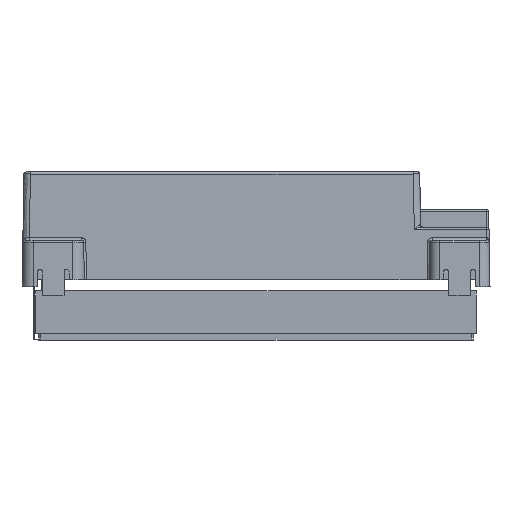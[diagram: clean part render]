
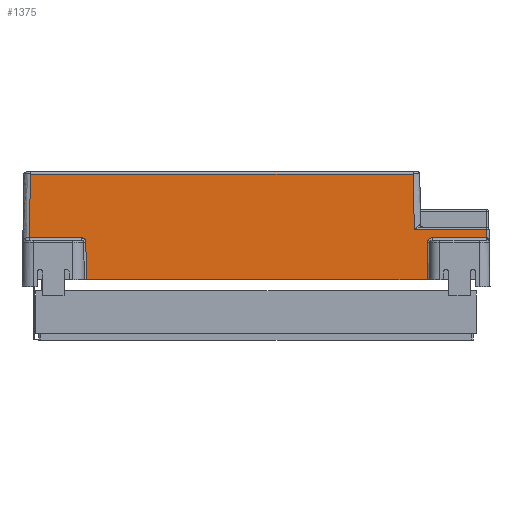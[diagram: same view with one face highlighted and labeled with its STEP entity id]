
A CAD part, left-side view. The second image highlights one B-rep face of the part: STEP entity #1375.
In plain terms, the highlighted planar face has unit normal (-1, 0, 0.018).
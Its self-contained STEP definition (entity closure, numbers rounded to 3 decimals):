
#344=(
BOUNDED_CURVE()
B_SPLINE_CURVE(2,(#23103,#23104,#23105),.UNSPECIFIED.,.F.,.F.)
B_SPLINE_CURVE_WITH_KNOTS((3,3),(-1.966,0.),.UNSPECIFIED.)
CURVE()
GEOMETRIC_REPRESENTATION_ITEM()
RATIONAL_B_SPLINE_CURVE((1.,0.713,1.))
REPRESENTATION_ITEM('')
);
#353=(
BOUNDED_CURVE()
B_SPLINE_CURVE(2,(#23151,#23152,#23153),.UNSPECIFIED.,.F.,.F.)
B_SPLINE_CURVE_WITH_KNOTS((3,3),(-1.966,0.),.UNSPECIFIED.)
CURVE()
GEOMETRIC_REPRESENTATION_ITEM()
RATIONAL_B_SPLINE_CURVE((1.,0.713,1.))
REPRESENTATION_ITEM('')
);
#451=(
BOUNDED_CURVE()
B_SPLINE_CURVE(1,(#23566,#23567),.UNSPECIFIED.,.F.,.F.)
B_SPLINE_CURVE_WITH_KNOTS((2,2),(0.,2.018),.UNSPECIFIED.)
CURVE()
GEOMETRIC_REPRESENTATION_ITEM()
RATIONAL_B_SPLINE_CURVE((1.,1.))
REPRESENTATION_ITEM('')
);
#486=(
BOUNDED_CURVE()
B_SPLINE_CURVE(1,(#23716,#23717),.UNSPECIFIED.,.F.,.F.)
B_SPLINE_CURVE_WITH_KNOTS((2,2),(0.,14.822),.UNSPECIFIED.)
CURVE()
GEOMETRIC_REPRESENTATION_ITEM()
RATIONAL_B_SPLINE_CURVE((1.,1.))
REPRESENTATION_ITEM('')
);
#487=(
BOUNDED_CURVE()
B_SPLINE_CURVE(1,(#23718,#23719),.UNSPECIFIED.,.F.,.F.)
B_SPLINE_CURVE_WITH_KNOTS((2,2),(0.,12.804),.UNSPECIFIED.)
CURVE()
GEOMETRIC_REPRESENTATION_ITEM()
RATIONAL_B_SPLINE_CURVE((1.,1.))
REPRESENTATION_ITEM('')
);
#553=(
BOUNDED_CURVE()
B_SPLINE_CURVE(1,(#24492,#24493),.UNSPECIFIED.,.F.,.F.)
B_SPLINE_CURVE_WITH_KNOTS((2,2),(-8.711,0.),.UNSPECIFIED.)
CURVE()
GEOMETRIC_REPRESENTATION_ITEM()
RATIONAL_B_SPLINE_CURVE((1.,1.))
REPRESENTATION_ITEM('')
);
#555=(
BOUNDED_CURVE()
B_SPLINE_CURVE(1,(#24497,#24498),.UNSPECIFIED.,.F.,.F.)
B_SPLINE_CURVE_WITH_KNOTS((2,2),(-8.711,0.),.UNSPECIFIED.)
CURVE()
GEOMETRIC_REPRESENTATION_ITEM()
RATIONAL_B_SPLINE_CURVE((1.,1.))
REPRESENTATION_ITEM('')
);
#1375=ADVANCED_FACE('',(#2065),#11256,.T.);
#2065=FACE_OUTER_BOUND('',#2778,.T.);
#2778=EDGE_LOOP('',(#5612,#5613,#5614,#5615,#5616,#5617,#5618,#5619,#5620,
#5621,#5622,#5623));
#5612=ORIENTED_EDGE('',*,*,#8124,.T.);
#5613=ORIENTED_EDGE('',*,*,#8227,.T.);
#5614=ORIENTED_EDGE('',*,*,#7681,.F.);
#5615=ORIENTED_EDGE('',*,*,#7675,.F.);
#5616=ORIENTED_EDGE('',*,*,#7838,.F.);
#5617=ORIENTED_EDGE('',*,*,#7765,.F.);
#5618=ORIENTED_EDGE('',*,*,#7890,.F.);
#5619=ORIENTED_EDGE('',*,*,#7848,.F.);
#5620=ORIENTED_EDGE('',*,*,#7889,.F.);
#5621=ORIENTED_EDGE('',*,*,#7688,.F.);
#5622=ORIENTED_EDGE('',*,*,#7693,.F.);
#5623=ORIENTED_EDGE('',*,*,#8229,.T.);
#7675=EDGE_CURVE('',#10547,#10551,#9336,.T.);
#7681=EDGE_CURVE('',#10551,#10553,#344,.T.);
#7688=EDGE_CURVE('',#10560,#10558,#9338,.T.);
#7693=EDGE_CURVE('',#10563,#10560,#353,.T.);
#7765=EDGE_CURVE('',#10564,#10602,#9359,.T.);
#7838=EDGE_CURVE('',#10602,#10547,#451,.T.);
#7848=EDGE_CURVE('',#10647,#10641,#9390,.T.);
#7889=EDGE_CURVE('',#10558,#10647,#486,.T.);
#7890=EDGE_CURVE('',#10641,#10564,#487,.T.);
#8124=EDGE_CURVE('',#10866,#10867,#9589,.T.);
#8227=EDGE_CURVE('',#10867,#10553,#553,.T.);
#8229=EDGE_CURVE('',#10563,#10866,#555,.T.);
#9336=B_SPLINE_CURVE_WITH_KNOTS('',1,(#23074,#23075),.UNSPECIFIED.,.F.,
 .F.,(2,2),(0.,12.746),.UNSPECIFIED.);
#9338=B_SPLINE_CURVE_WITH_KNOTS('',1,(#23137,#23138),.UNSPECIFIED.,.F.,
 .F.,(2,2),(0.,12.101),.UNSPECIFIED.);
#9359=B_SPLINE_CURVE_WITH_KNOTS('',1,(#23382,#23383),.UNSPECIFIED.,.F.,
 .F.,(2,2),(0.,16.823),.UNSPECIFIED.);
#9390=B_SPLINE_CURVE_WITH_KNOTS('',1,(#23593,#23594),.UNSPECIFIED.,.F.,
 .F.,(2,2),(0.,88.766),.UNSPECIFIED.);
#9589=B_SPLINE_CURVE_WITH_KNOTS('',1,(#24266,#24267),.UNSPECIFIED.,.F.,
 .F.,(2,2),(0.,78.956),.UNSPECIFIED.);
#10547=VERTEX_POINT('',#19724);
#10551=VERTEX_POINT('',#19728);
#10553=VERTEX_POINT('',#19730);
#10558=VERTEX_POINT('',#19735);
#10560=VERTEX_POINT('',#19737);
#10563=VERTEX_POINT('',#19740);
#10564=VERTEX_POINT('',#19741);
#10602=VERTEX_POINT('',#19779);
#10641=VERTEX_POINT('',#19818);
#10647=VERTEX_POINT('',#19824);
#10866=VERTEX_POINT('',#20043);
#10867=VERTEX_POINT('',#20044);
#11256=PLANE('',#11659);
#11659=AXIS2_PLACEMENT_3D('',#18281,#12046,$);
#12046=DIRECTION('',(-1.,0.,0.017));
#18281=CARTESIAN_POINT('',(-76.59,188.875,28.572));
#19724=CARTESIAN_POINT('',(-76.892,72.146,11.291));
#19728=CARTESIAN_POINT('',(-76.892,84.892,11.291));
#19730=CARTESIAN_POINT('',(-76.909,85.892,10.309));
#19735=CARTESIAN_POINT('',(-76.892,178.253,11.291));
#19737=CARTESIAN_POINT('',(-76.892,166.152,11.291));
#19740=CARTESIAN_POINT('',(-76.909,165.152,10.309));
#19741=CARTESIAN_POINT('',(-76.857,89.004,13.309));
#19779=CARTESIAN_POINT('',(-76.857,72.181,13.309));
#19818=CARTESIAN_POINT('',(-76.633,89.227,26.109));
#19824=CARTESIAN_POINT('',(-76.633,177.994,26.109));
#20043=CARTESIAN_POINT('',(-77.061,165.,1.6));
#20044=CARTESIAN_POINT('',(-77.061,86.044,1.6));
#23074=CARTESIAN_POINT('',(-76.892,72.146,11.291));
#23075=CARTESIAN_POINT('',(-76.892,84.892,11.291));
#23103=CARTESIAN_POINT('',(-76.892,84.892,11.291));
#23104=CARTESIAN_POINT('',(-76.892,85.875,11.291));
#23105=CARTESIAN_POINT('',(-76.909,85.892,10.309));
#23137=CARTESIAN_POINT('',(-76.892,166.152,11.291));
#23138=CARTESIAN_POINT('',(-76.892,178.253,11.291));
#23151=CARTESIAN_POINT('',(-76.909,165.152,10.309));
#23152=CARTESIAN_POINT('',(-76.892,165.169,11.291));
#23153=CARTESIAN_POINT('',(-76.892,166.152,11.291));
#23382=CARTESIAN_POINT('',(-76.857,89.004,13.309));
#23383=CARTESIAN_POINT('',(-76.857,72.181,13.309));
#23566=CARTESIAN_POINT('',(-76.857,72.181,13.309));
#23567=CARTESIAN_POINT('',(-76.892,72.146,11.291));
#23593=CARTESIAN_POINT('',(-76.633,177.994,26.109));
#23594=CARTESIAN_POINT('',(-76.633,89.227,26.109));
#23716=CARTESIAN_POINT('',(-76.892,178.253,11.291));
#23717=CARTESIAN_POINT('',(-76.633,177.994,26.109));
#23718=CARTESIAN_POINT('',(-76.633,89.227,26.109));
#23719=CARTESIAN_POINT('',(-76.857,89.004,13.309));
#24266=CARTESIAN_POINT('',(-77.061,165.,1.6));
#24267=CARTESIAN_POINT('',(-77.061,86.044,1.6));
#24492=CARTESIAN_POINT('',(-77.061,86.044,1.6));
#24493=CARTESIAN_POINT('',(-76.909,85.892,10.309));
#24497=CARTESIAN_POINT('',(-76.909,165.152,10.309));
#24498=CARTESIAN_POINT('',(-77.061,165.,1.6));
